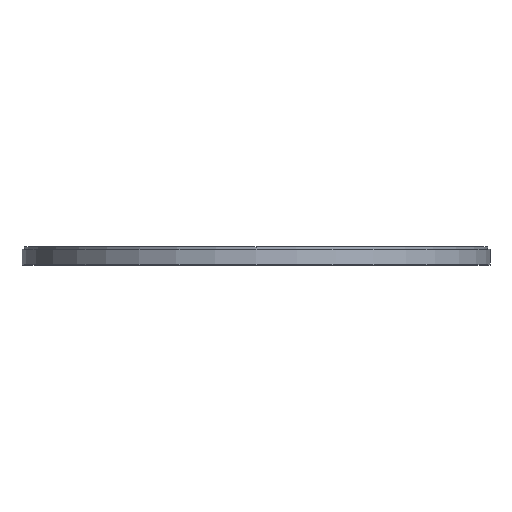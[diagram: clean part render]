
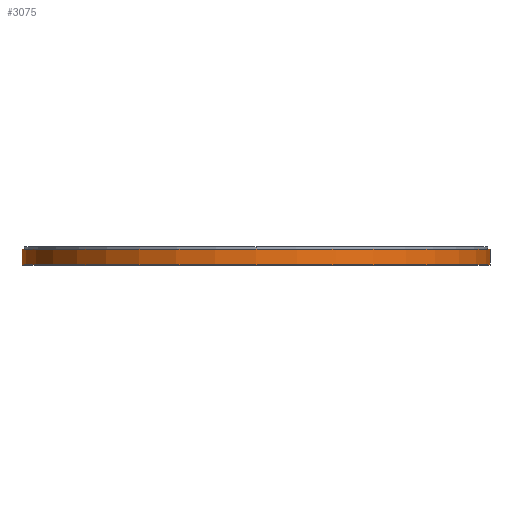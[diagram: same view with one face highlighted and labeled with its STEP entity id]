
A CAD part, top view. The second image highlights one B-rep face of the part: STEP entity #3075.
In plain terms, the highlighted cylindrical face has radius 75 mm (diameter 150 mm), a partial arc.
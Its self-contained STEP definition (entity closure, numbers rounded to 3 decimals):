
#237 = LINE ( 'NONE', #25680, #16141 ) ;
#3047 = VECTOR ( 'NONE', #21583, 1000. ) ;
#3075 = ADVANCED_FACE ( 'NONE', ( #9954 ), #16354, .T. ) ;
#3305 = DIRECTION ( 'NONE',  ( 0., 1., 0. ) ) ;
#4501 = AXIS2_PLACEMENT_3D ( 'NONE', #10994, #8656, #13378 ) ;
#4629 = CARTESIAN_POINT ( 'NONE',  ( 75., 5., 0. ) ) ;
#7215 = CARTESIAN_POINT ( 'NONE',  ( 0., 5., 0. ) ) ;
#8305 = DIRECTION ( 'NONE',  ( 0., -1., 0. ) ) ;
#8373 = CARTESIAN_POINT ( 'NONE',  ( 75., 0., 0. ) ) ;
#8656 = DIRECTION ( 'NONE',  ( 0., -1., 0. ) ) ;
#8873 = CARTESIAN_POINT ( 'NONE',  ( -75., 5., 0. ) ) ;
#9373 = ORIENTED_EDGE ( 'NONE', *, *, #9700, .F. ) ;
#9576 = VERTEX_POINT ( 'NONE', #20100 ) ;
#9700 = EDGE_CURVE ( 'NONE', #9576, #17735, #13070, .T. ) ;
#9954 = FACE_OUTER_BOUND ( 'NONE', #16120, .T. ) ;
#10994 = CARTESIAN_POINT ( 'NONE',  ( 0., 5., 0. ) ) ;
#13070 = LINE ( 'NONE', #4629, #3047 ) ;
#13171 = CARTESIAN_POINT ( 'NONE',  ( -75., 0., 0. ) ) ;
#13294 = VERTEX_POINT ( 'NONE', #13171 ) ;
#13378 = DIRECTION ( 'NONE',  ( -1., 0., 0. ) ) ;
#13528 = ORIENTED_EDGE ( 'NONE', *, *, #19316, .T. ) ;
#14115 = EDGE_CURVE ( 'NONE', #13294, #17735, #15992, .T. ) ;
#14507 = VERTEX_POINT ( 'NONE', #8873 ) ;
#15992 = CIRCLE ( 'NONE', #19141, 75. ) ;
#16120 = EDGE_LOOP ( 'NONE', ( #9373, #21725, #13528, #22663 ) ) ;
#16141 = VECTOR ( 'NONE', #8305, 1000. ) ;
#16354 = CYLINDRICAL_SURFACE ( 'NONE', #4501, 75. ) ;
#17735 = VERTEX_POINT ( 'NONE', #8373 ) ;
#19141 = AXIS2_PLACEMENT_3D ( 'NONE', #26889, #24787, #22579 ) ;
#19316 = EDGE_CURVE ( 'NONE', #14507, #13294, #237, .T. ) ;
#20100 = CARTESIAN_POINT ( 'NONE',  ( 75., 5., 0. ) ) ;
#21583 = DIRECTION ( 'NONE',  ( 0., -1., 0. ) ) ;
#21725 = ORIENTED_EDGE ( 'NONE', *, *, #26676, .F. ) ;
#22579 = DIRECTION ( 'NONE',  ( 1., 0., 0. ) ) ;
#22663 = ORIENTED_EDGE ( 'NONE', *, *, #14115, .T. ) ;
#23851 = AXIS2_PLACEMENT_3D ( 'NONE', #7215, #3305, #26811 ) ;
#24714 = CIRCLE ( 'NONE', #23851, 75. ) ;
#24787 = DIRECTION ( 'NONE',  ( 0., 1., 0. ) ) ;
#25680 = CARTESIAN_POINT ( 'NONE',  ( -75., 5., 0. ) ) ;
#26676 = EDGE_CURVE ( 'NONE', #14507, #9576, #24714, .T. ) ;
#26811 = DIRECTION ( 'NONE',  ( 1., 0., 0. ) ) ;
#26889 = CARTESIAN_POINT ( 'NONE',  ( 0., 0., 0. ) ) ;
